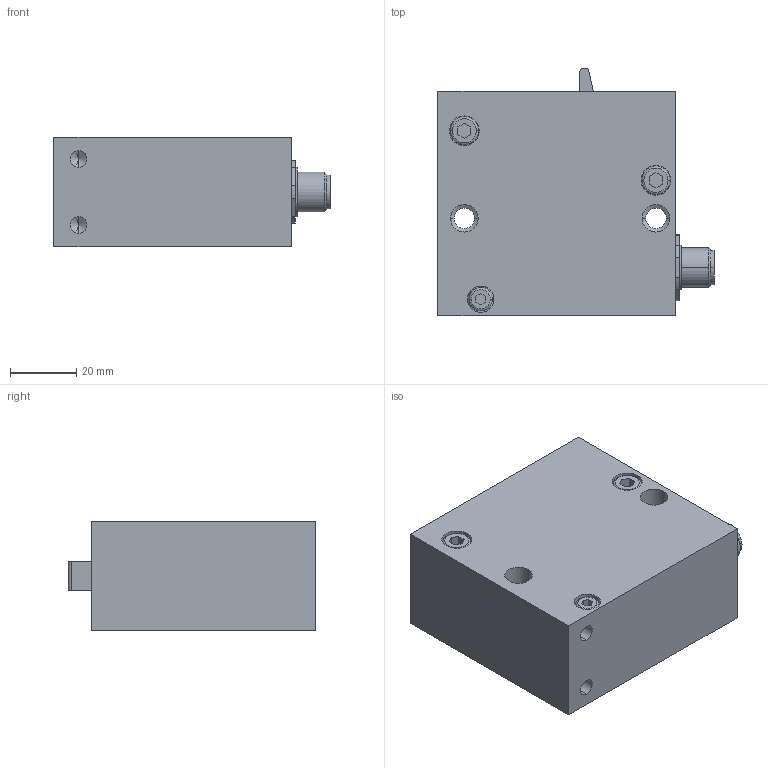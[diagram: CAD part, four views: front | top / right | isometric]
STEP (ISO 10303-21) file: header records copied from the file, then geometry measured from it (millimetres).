
FILE_DESCRIPTION (( 'STEP AP203' ), '1' );
FILE_NAME ('ELU-20-07-KI_.STEP', '2019-01-10T09:04:19', ( '' ), ( '' ), 'SwSTEP 2.0', 'SolidWorks 2017', '' );
FILE_SCHEMA (( 'CONFIG_CONTROL_DESIGN' ));
Length unit declared in the file: millimetre
Products named in the file (1): ELU-20-07-KI_
Bounding box: 83.6 x 75 x 33 mm (x, y, z)
Volume: 156601.9 mm3; surface area: 24280.4 mm2
Topology: 2 solids, 2 shells, 156 faces, 377 edges, 232 vertices
Faces by surface type: plane 64, cylinder 62, cone 14, sphere 10, torus 6
Entity records: 4475 total; most frequent: DIRECTION 808, CARTESIAN_POINT 766, ORIENTED_EDGE 706, EDGE_CURVE 353, AXIS2_PLACEMENT_3D 302, VERTEX_POINT 222, LINE 204, VECTOR 204
